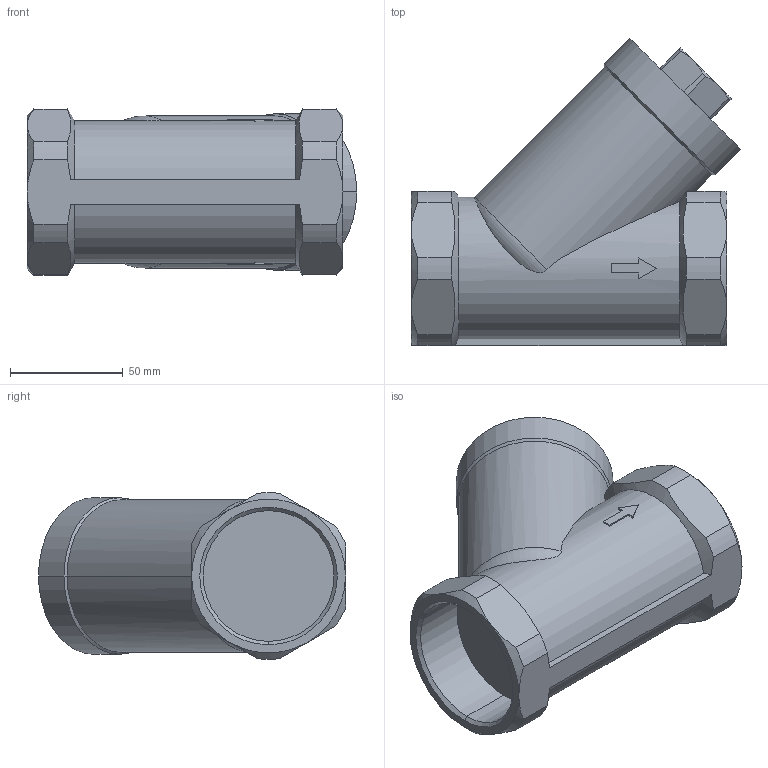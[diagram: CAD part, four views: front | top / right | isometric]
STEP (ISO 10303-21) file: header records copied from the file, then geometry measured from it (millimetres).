
FILE_DESCRIPTION (( 'STEP AP203' ), '1' );
FILE_NAME ('Y6.623050FNC.STEP', '2018-12-14T08:33:47', ( 'dell2' ), ( 'Microsoft' ), 'SwSTEP 2.0', 'SolidWorks 2017', '' );
FILE_SCHEMA (( 'CONFIG_CONTROL_DESIGN' ));
Length unit declared in the file: millimetre
Products named in the file (1): Y6.623050FNC
Bounding box: 146.15 x 136.22 x 73.93 mm (x, y, z)
Volume: 620822.3 mm3; surface area: 63028.7 mm2
Topology: 1 solids, 1 shells, 97 faces, 242 edges, 152 vertices
Faces by surface type: plane 41, cone 27, cylinder 27, torus 2
Entity records: 3377 total; most frequent: CARTESIAN_POINT 1057, ORIENTED_EDGE 484, DIRECTION 454, EDGE_CURVE 242, AXIS2_PLACEMENT_3D 181, VERTEX_POINT 152, EDGE_LOOP 102, ADVANCED_FACE 97
